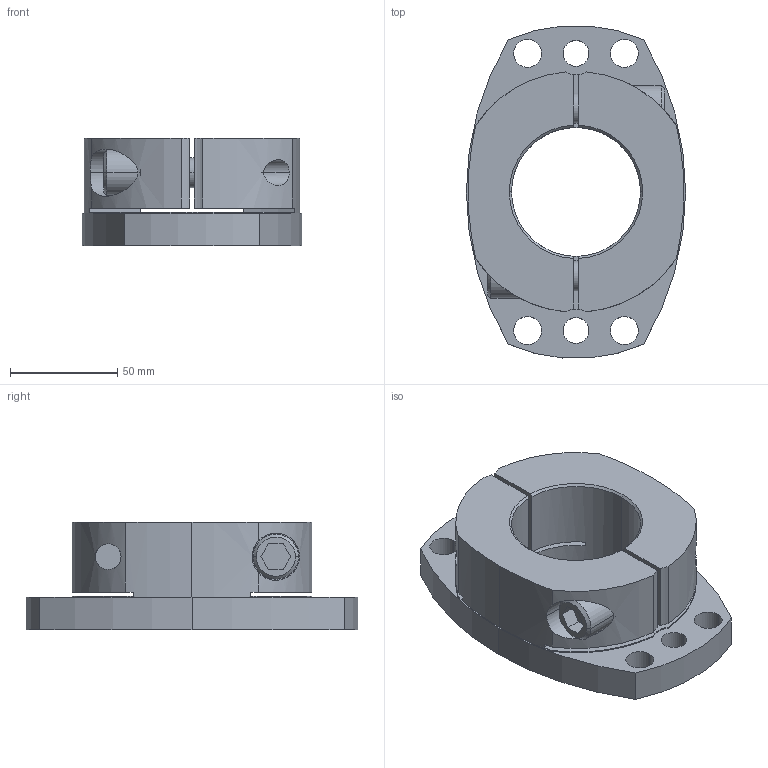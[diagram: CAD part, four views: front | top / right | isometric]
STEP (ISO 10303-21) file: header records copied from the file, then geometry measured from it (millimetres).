
FILE_DESCRIPTION((''),'2;1');
FILE_NAME('SHDB-155B-60.stp','2026-01-28T09:02:05',(''),(''),'AutoCAD STEP 2000i','AutoCAD 2000i',', , ');
FILE_SCHEMA(('CONFIG_CONTROL_DESIGN'));
Length unit declared in the file: millimetre
Products named in the file (2): SHDB-155B-45; 忣兜1
Assembly tree (1 placements, depth 2):
  SHDB-155B-45
    忣兜1
Bounding box: 102 x 154.46 x 50 mm (x, y, z)
Volume: 355020.6 mm3; surface area: 67036.6 mm2
Topology: 1 solids, 1 shells, 102 faces, 274 edges, 180 vertices
Faces by surface type: cylinder 58, plane 34, cone 10
Entity records: 3673 total; most frequent: CARTESIAN_POINT 874, DIRECTION 600, ORIENTED_EDGE 548, EDGE_CURVE 274, AXIS2_PLACEMENT_3D 238, VERTEX_POINT 180, CIRCLE 134, EDGE_LOOP 126
